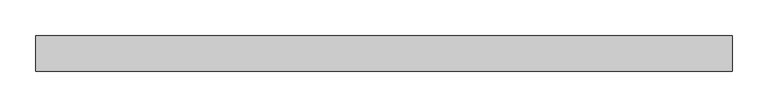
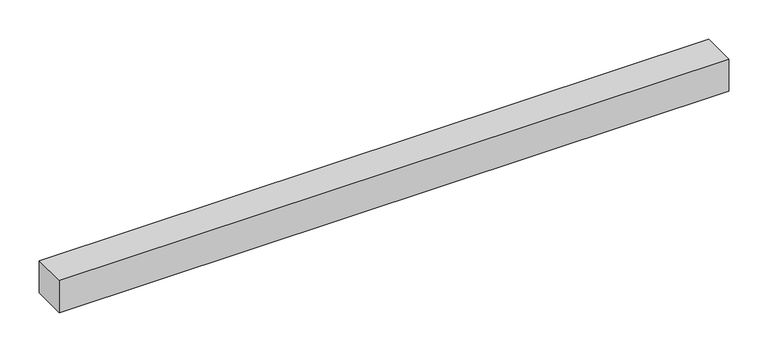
"""IFC4 building model written with IfcOpenShell, lengths in millimetres: light fixture geometry, GENILED_Светильник светодиодный_Line Alum Advanced : Line Alum Advanced 980x50x50 40Вт 90Ra Опал."""

from ifc_helpers import new_model, si_unit, origin, origin_with_axes, place, context, project, spatial, polyline, outline, extrude, faceted_brep, source, transform, mapped, element, save


def light_fixture_92eabb3a(model_context):
    return source(origin(), model_context, "Body", "SolidModel", [
        faceted_brep([(490.0, 25.0, 50.0), (-490.0, 25.0, 50.0), (-490.0, -25.0, 50.0), (490.0, -25.0, 50.0), (488.0, 23.0, 5.0), (488.0, -23.0, 5.0), (-488.0, -23.0, 5.0), (-488.0, 23.0, 5.0), (490.0, 25.0, 0.0), (490.0, -25.0, 0.0), (-490.0, -25.0, 0.0), (-490.0, 25.0, 0.0), (488.0, 23.0, 0.0), (-488.0, 23.0, 0.0), (-488.0, -23.0, 0.0), (488.0, -23.0, 0.0)], [[[0, 1, 2, 3]], [[4, 5, 6, 7]], [[8, 9, 10, 11], [12, 13, 14, 15]], [[1, 0, 8, 11]], [[2, 1, 11, 10]], [[3, 2, 10, 9]], [[0, 3, 9, 8]], [[12, 15, 5, 4]], [[15, 14, 6, 5]], [[14, 13, 7, 6]], [[13, 12, 4, 7]]]),
        extrude(outline(polyline([(488.0, 23.0), (488.0, -23.0), (-488.0, -23.0), (-488.0, 23.0), (488.0, 23.0)])), origin_with_axes(), (0.0, 0.0, 1.0), 5.0),
    ])


if __name__ == "__main__":
    model = new_model("IFC4")
    model_context = context("Model", 3, world=origin())
    ifc_project = project(units=[si_unit("LENGTHUNIT", "METRE", prefix="MILLI")], contexts=[model_context])
    site = spatial("IfcSite", under=ifc_project)
    building = spatial("IfcBuilding", under=site)
    placement = place(None, origin())
    light_fixture_shape = light_fixture_92eabb3a(model_context)
    element("IfcLightFixture", 1, ObjectType="GENILED_Светильник светодиодный_Line Alum Advanced : Line Alum Advanced 980x50x50 40Вт 90Ra Опал", at=placement, inside=building, context=model_context, shape_type="MappedRepresentation", body=[
        mapped(light_fixture_shape, transform((0.0, 0.0, 0.0), x_axis=(1.0, 0.0, 0.0), y_axis=(0.0, 1.0, 0.0), z_axis=(0.0, 0.0, 1.0))),
    ])
    save(model, "model.ifc")
